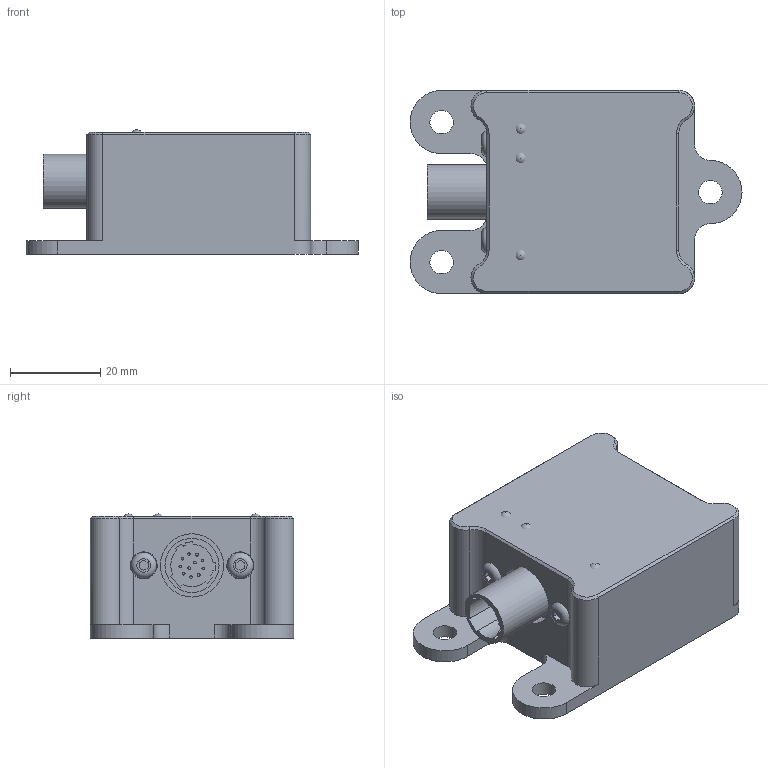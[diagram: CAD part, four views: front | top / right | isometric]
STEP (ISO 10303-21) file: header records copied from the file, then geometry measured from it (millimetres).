
FILE_DESCRIPTION(/* description */ ('Alibre Inc.'),/* implementation_level */ '2;1');
FILE_NAME(/* name */ 'export0',/* time_stamp */ '2015-10-29T14:17:43+11:00',/* author */ (''),/* organization */ (''),/* preprocessor_version */ 'ST-DEVELOPER v14',/* originating_system */ 'Alibre',/* authorisation */ '');
FILE_SCHEMA (('AUTOMOTIVE_DESIGN'));
Length unit declared in the file: centimetre
Bounding box: 73.5 x 45 x 27.5 mm (x, y, z)
Volume: 53624.6 mm3; surface area: 13603.3 mm2
Topology: 7 solids, 7 shells, 132 faces, 298 edges, 193 vertices
Faces by surface type: plane 74, cylinder 44, cone 8, sphere 3, torus 2, extrusion 1
Full cylindrical faces by diameter (mm): 0.6 x11, 3.25 x2, 5.2 x3, 5.7 x2, 6 x2, 12 x1, 14 x1
Entity records: 3297 total; most frequent: CARTESIAN_POINT 553, DIRECTION 528, ORIENTED_EDGE 484, EDGE_CURVE 242, AXIS2_PLACEMENT_3D 226, VERTEX_POINT 171, EDGE_LOOP 165, FACE_BOUND 165
